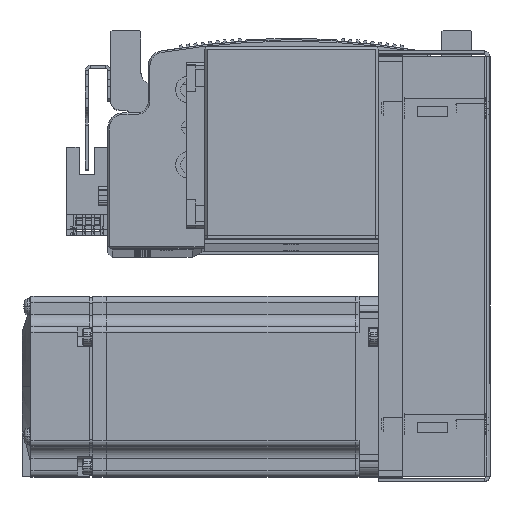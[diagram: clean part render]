
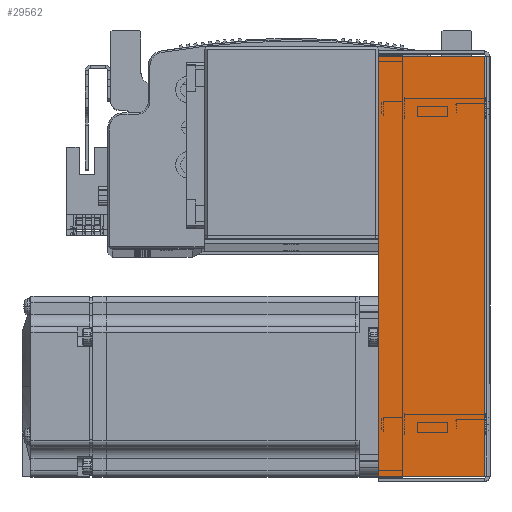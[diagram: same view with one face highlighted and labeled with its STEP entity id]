
A CAD part, top view. The second image highlights one B-rep face of the part: STEP entity #29562.
In plain terms, the highlighted planar face has unit normal (0, 0, 1).
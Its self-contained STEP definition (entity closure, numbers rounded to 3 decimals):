
#5321 = EDGE_CURVE ( 'NONE', #44227, #44257, #14295, .T. ) ;
#5343 = EDGE_CURVE ( 'NONE', #44293, #44227, #14412, .T. ) ;
#5380 = EDGE_CURVE ( 'NONE', #44293, #44244, #14627, .T. ) ;
#5412 = EDGE_CURVE ( 'NONE', #44244, #44257, #14598, .T. ) ;
#14295 = LINE ( 'NONE', #64340, #14387 ) ;
#14387 = VECTOR ( 'NONE', #64343, 1000. ) ;
#14412 = LINE ( 'NONE', #64549, #14427 ) ;
#14427 = VECTOR ( 'NONE', #64502, 1000. ) ;
#14572 = VECTOR ( 'NONE', #64761, 1000. ) ;
#14598 = LINE ( 'NONE', #64921, #14601 ) ;
#14601 = VECTOR ( 'NONE', #64927, 1000. ) ;
#14627 = LINE ( 'NONE', #64720, #14572 ) ;
#21579 = DIRECTION ( 'NONE',  ( -1., 0., 0. ) ) ;
#21595 = DIRECTION ( 'NONE',  ( 0., 0., -1. ) ) ;
#21644 = PLANE ( 'NONE',  #23036 ) ;
#21675 = CARTESIAN_POINT ( 'NONE',  ( 0., 0., 33.5 ) ) ;
#23036 = AXIS2_PLACEMENT_3D ( 'NONE', #21675, #21595, #21579 ) ;
#29562 = ADVANCED_FACE ( 'NONE', ( #43812 ), #21644, .F. ) ;
#34280 = CARTESIAN_POINT ( 'NONE',  ( -69.793, 0.737, 33.5 ) ) ;
#34311 = CARTESIAN_POINT ( 'NONE',  ( -69.793, 36., 33.5 ) ) ;
#34340 = CARTESIAN_POINT ( 'NONE',  ( 69.793, 36., 33.5 ) ) ;
#34415 = CARTESIAN_POINT ( 'NONE',  ( 69.793, 0.737, 33.5 ) ) ;
#37651 = ORIENTED_EDGE ( 'NONE', *, *, #5321, .F. ) ;
#37655 = ORIENTED_EDGE ( 'NONE', *, *, #5412, .T. ) ;
#37658 = ORIENTED_EDGE ( 'NONE', *, *, #5343, .F. ) ;
#37670 = ORIENTED_EDGE ( 'NONE', *, *, #5380, .T. ) ;
#43812 = FACE_OUTER_BOUND ( 'NONE', #48613, .T. ) ;
#44227 = VERTEX_POINT ( 'NONE', #34280 ) ;
#44244 = VERTEX_POINT ( 'NONE', #34340 ) ;
#44257 = VERTEX_POINT ( 'NONE', #34311 ) ;
#44293 = VERTEX_POINT ( 'NONE', #34415 ) ;
#48613 = EDGE_LOOP ( 'NONE', ( #37658, #37670, #37655, #37651 ) ) ;
#64340 = CARTESIAN_POINT ( 'NONE',  ( -69.793, 0., 33.5 ) ) ;
#64343 = DIRECTION ( 'NONE',  ( 0., 1., 0. ) ) ;
#64502 = DIRECTION ( 'NONE',  ( -1., 0., 0. ) ) ;
#64549 = CARTESIAN_POINT ( 'NONE',  ( -71.5, 0.737, 33.5 ) ) ;
#64720 = CARTESIAN_POINT ( 'NONE',  ( 69.793, 0., 33.5 ) ) ;
#64761 = DIRECTION ( 'NONE',  ( 0., 1., 0. ) ) ;
#64921 = CARTESIAN_POINT ( 'NONE',  ( 0., 36., 33.5 ) ) ;
#64927 = DIRECTION ( 'NONE',  ( -1., 0., 0. ) ) ;
